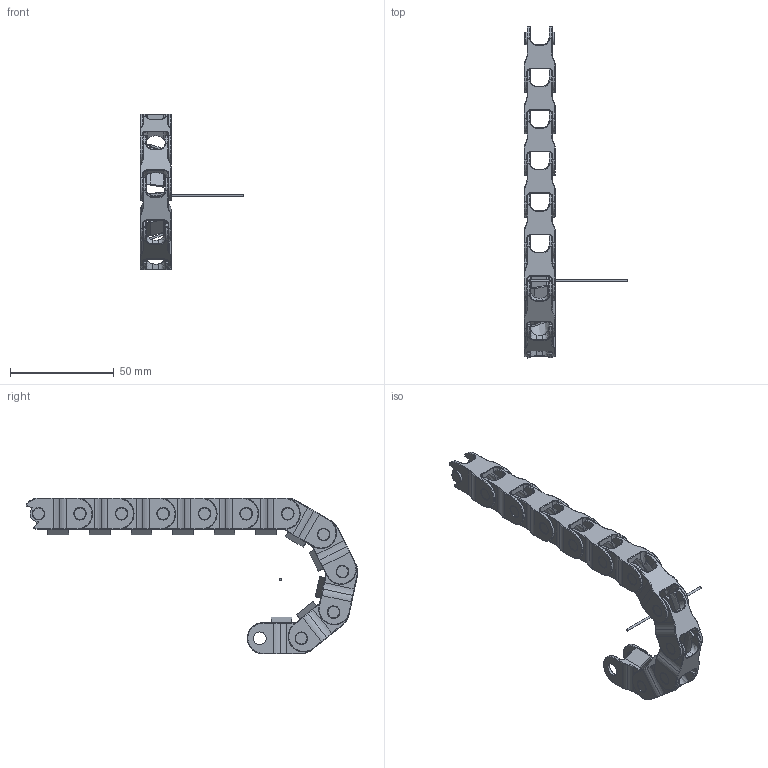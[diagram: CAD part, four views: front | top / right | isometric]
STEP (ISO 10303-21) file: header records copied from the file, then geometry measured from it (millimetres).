
FILE_DESCRIPTION((''),'2;1');
FILE_NAME('C:\Uebbing\PARAMETERKETTEN\KOLIBRI\Kol_15_015_4\KOLIBRI 15_015_4_R30.stp','2012-03-02T14:52:40',('Uebbing'),(''),'Autodesk Inventor 10','Autodesk Inventor 10','');
FILE_SCHEMA(('AUTOMOTIVE_DESIGN { 1 0 10303 214 1 1 1 1 }'));
Length unit declared in the file: millimetre
Products named in the file (3): KOLIBRI 15_015_4_PARAMETRISCH; Kol_15_015_4; Achse
Assembly tree (12 placements, depth 2):
  KOLIBRI 15_015_4_PARAMETRISCH
    Kol_15_015_4  x11
    Achse
Bounding box: 50 x 159.81 x 75 mm (x, y, z)
Volume: 20199.5 mm3; surface area: 25374.3 mm2
Topology: 12 solids, 12 shells, 1323 faces, 3238 edges, 1961 vertices
Faces by surface type: bspline 1320, plane 2, cylinder 1
Full cylindrical faces by diameter (mm): 1 x1
Entity records: 5748 total; most frequent: CARTESIAN_POINT 3162, ORIENTED_EDGE 574, DIRECTION 432, EDGE_CURVE 287, VERTEX_POINT 177, AXIS2_PLACEMENT_3D 152, EDGE_LOOP 136, CIRCLE 130
